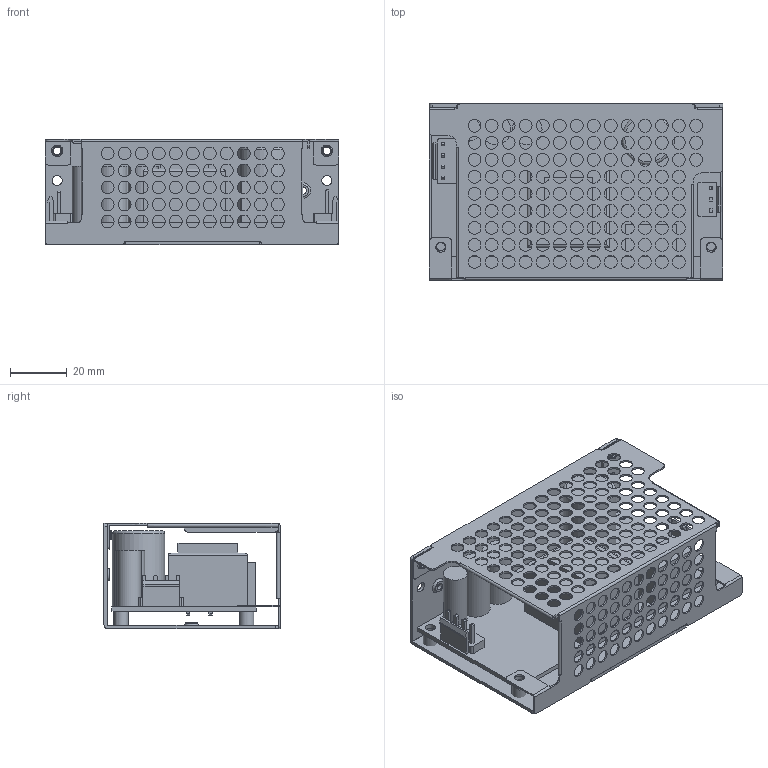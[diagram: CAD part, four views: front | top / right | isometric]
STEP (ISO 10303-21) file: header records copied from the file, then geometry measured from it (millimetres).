
FILE_DESCRIPTION((''),'2;1');
FILE_NAME('C:\Users\shirley\Desktop\EPS-65.stp','2019-11-27T17:40:26',('shirley'),(''),'Autodesk Inventor 2010','Autodesk Inventor 2010','');
FILE_SCHEMA(('AUTOMOTIVE_DESIGN { 1 0 10303 214 1 1 1 1 }'));
Length unit declared in the file: millimetre
Products named in the file (13): EPS-65; FF; PCB; a1_1; 946A-D; M3-6LÁ³¬W-3; JS1120-03N2; CN1; PIN_CPY; PIN_CPY_CPY; JS-1120-04
Assembly tree (15 placements, depth 4):
  EPS-65
    (unnamed)
    FF
    PCB
    (unnamed)
      a1_1
        946A-D
        M3-6LÁ³¬W-3  x4
    JS1120-03N2
      CN1
      PIN_CPY
      PIN_CPY_CPY
    JS-1120-04
Bounding box: 103.38 x 62.02 x 37 mm (x, y, z)
Volume: 62323.2 mm3; surface area: 57553.2 mm2
Topology: 12 solids, 12 shells, 516 faces, 1588 edges, 1301 vertices
Faces by surface type: cylinder 278, plane 211, torus 13, bspline 12, cone 2
Full cylindrical faces by diameter (mm): 2.65 x6, 3 x4, 3.37 x2, 3.4 x2, 3.5 x8, 4.09 x4, 4.5 x175, 5 x4, 7 x4, 8.5 x1, 10.5 x2, 18.5 x1
Entity records: 19392 total; most frequent: CARTESIAN_POINT 4239, DIRECTION 2948, ORIENTED_EDGE 2238, EDGE_LOOP 1121, AXIS2_PLACEMENT_3D 1119, EDGE_CURVE 1119, VERTEX_POINT 880, VECTOR 710
